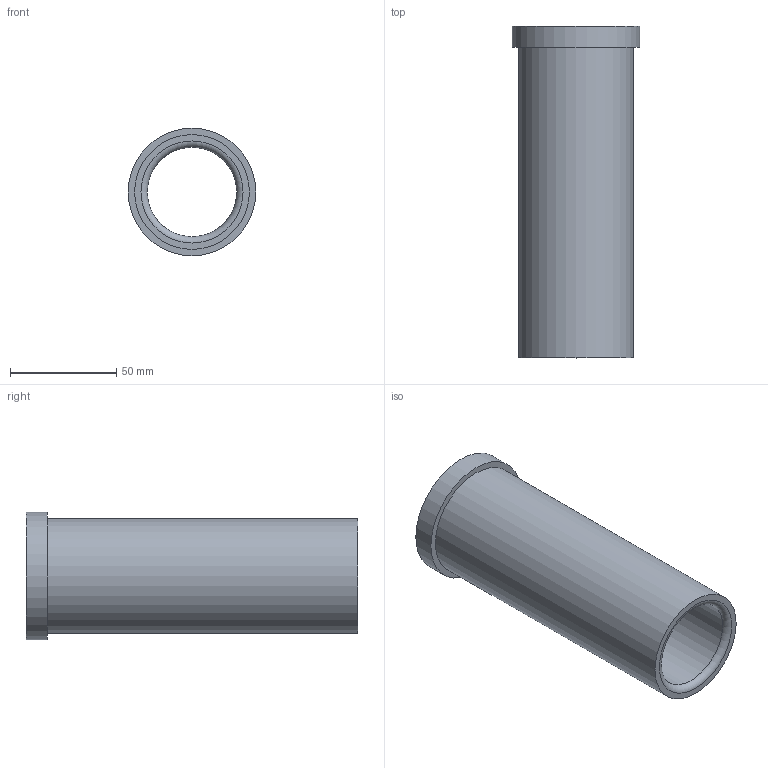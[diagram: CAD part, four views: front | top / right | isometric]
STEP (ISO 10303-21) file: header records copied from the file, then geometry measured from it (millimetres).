
FILE_DESCRIPTION(/* description */ ('STEP AP214'),/* implementation_level */ '2;1');
FILE_NAME(/* name */ '03_12_17868',/* time_stamp */ '2023-06-15T11:35:46+02:00',/* author */ ('License CC BY-ND 4.0'),/* organization */ ('CADENAS'),/* preprocessor_version */ 'ST-DEVELOPER v19.3',/* originating_system */ 'PARTsolutions',/* authorisation */ ' ');
FILE_SCHEMA (('AUTOMOTIVE_DESIGN {1 0 10303 214 3 1 1}'));
Length unit declared in the file: millimetre
Products named in the file (1): VA_Bushing_17868
Bounding box: 60 x 156 x 60 mm (x, y, z)
Volume: 144744.2 mm3; surface area: 49845.6 mm2
Topology: 1 solids, 1 shells, 10 faces, 16 edges, 10 vertices
Faces by surface type: cylinder 4, plane 4, torus 2
Full cylindrical faces by diameter (mm): 42 x1, 42.6 x1, 54 x1, 60 x1
Entity records: 302 total; most frequent: DIRECTION 42, CARTESIAN_POINT 31, AXIS2_PLACEMENT_3D 21, ORIENTED_EDGE 20, EDGE_LOOP 20, FACE_BOUND 20, EDGE_CURVE 10, VERTEX_POINT 10
